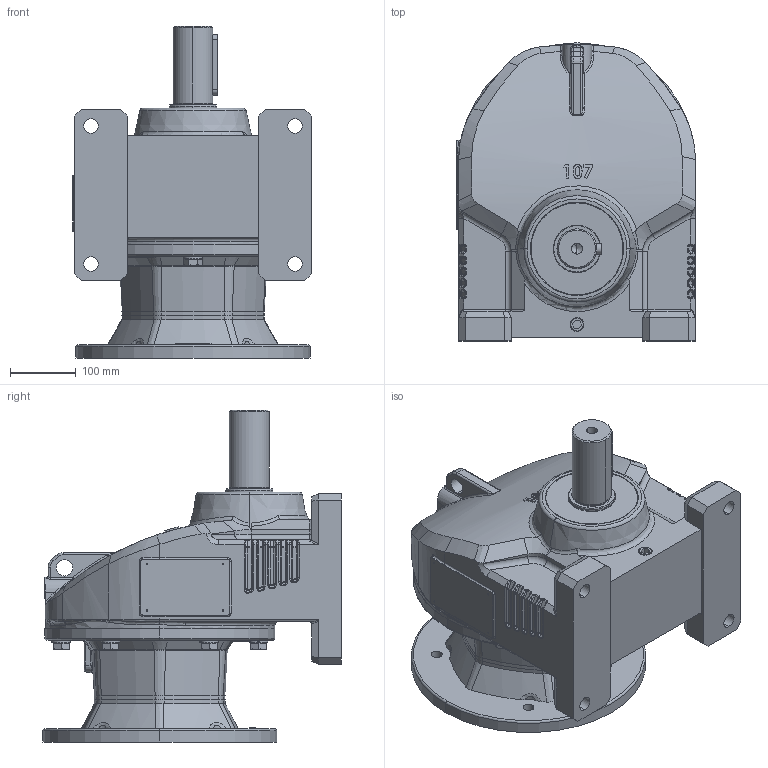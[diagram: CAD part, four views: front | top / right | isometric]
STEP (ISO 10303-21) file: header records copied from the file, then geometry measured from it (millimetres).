
FILE_DESCRIPTION (( 'STEP AP203' ), '1' );
FILE_NAME ('RX107HF-324TC.STEP', '2015-03-16T05:56:00', ( 'user' ), ( '' ), 'SwSTEP 2.0', 'SolidWorks 2012', '' );
FILE_SCHEMA (( 'CONFIG_CONTROL_DESIGN' ));
Products named in the file (28): PTBA16050_JIS B 1180 Continuous thread hexagon head bolt A M16 x 45 --N; P150_JKGA3833R; PCA038_JIS B 2804 Shaft use 38; PKD1008030; PSS085120131; PTAA16050; KFGG324T; KNGH324Txx_KNGH324T38; JHGA10750_減重; PJB04; PSS072140121; PCB140; PKD1811030S; PCA065_JIS B 2804 Shaft use 65; PBA6313_SKF - 6313 - 10,DE,NC,10_68; KEGX107; JCHX107; RX107HF-324TC; JSPC060072005; PKD5_8092; PCA060_JIS B 2804 Shaft use 60; PBA6312_SKF - 6312 - 10,DE,NC,10_68; JKGB13775L_JKGB13775L; 107法蘭入力組合324T_38; PCA032_JIS B 2804 Shaft use 32; PBA6217_SKF - 6217 - 14,DE,NC,14_68; PBA6215_SKF - 6215 - 16,DE,NC,16_68; PWS16_JIS B 1251 No.2 16
Assembly tree (46 placements, depth 3):
  RX107HF-324TC
    JCHX107
    KEGX107
    PBA6313_SKF - 6313 - 10,DE,NC,10_68
    PCA065_JIS B 2804 Shaft use 65
    PKD1811030S
    PCB140
    PSS072140121
    PJB04  x4
    107法蘭入力組合324T_38
      JHGA10750_減重
      KNGH324Txx_KNGH324T38
      KFGG324T
      PTAA16050  x6
      PSS085120131
      PKD1008030
      PCA038_JIS B 2804 Shaft use 38
      P150_JKGA3833R
      PTBA16050_JIS B 1180 Continuous thread hexagon head bolt A M16 x 45 --N  x6
      PWS16_JIS B 1251 No.2 16  x6
      PBA6215_SKF - 6215 - 16,DE,NC,16_68
      PBA6217_SKF - 6217 - 14,DE,NC,14_68
      PCA032_JIS B 2804 Shaft use 32
      PJB04
    JKGB13775L_JKGB13775L
    PBA6312_SKF - 6312 - 10,DE,NC,10_68
    PCA060_JIS B 2804 Shaft use 60
    PKD5_8092
    JSPC060072005
Bounding box: 363 x 454.05 x 505 mm (x, y, z)
Volume: 14685071 mm3; surface area: 2379911.1 mm2
Topology: 45 solids, 45 shells, 2544 faces, 6786 edges, 4225 vertices
Faces by surface type: cylinder 773, plane 701, torus 379, bspline 309, cone 266, sphere 116
Entity records: 95155 total; most frequent: CARTESIAN_POINT 38990, ORIENTED_EDGE 11676, DIRECTION 10496, EDGE_CURVE 5838, AXIS2_PLACEMENT_3D 4341, VERTEX_POINT 3695, EDGE_LOOP 2433, CIRCLE 2393
